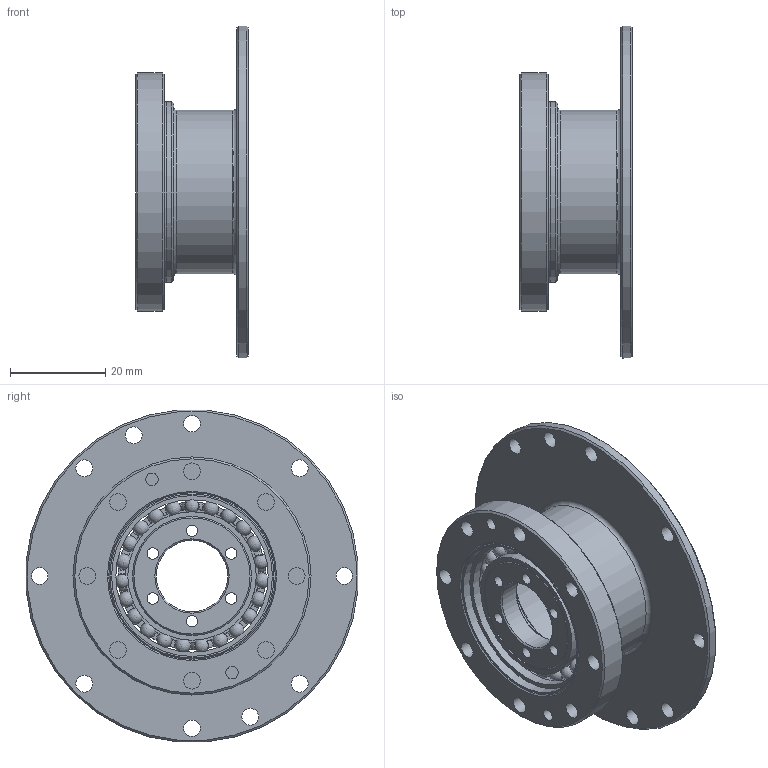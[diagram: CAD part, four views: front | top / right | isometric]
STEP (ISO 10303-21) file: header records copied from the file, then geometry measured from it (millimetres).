
FILE_DESCRIPTION(/* description */ (''),/* implementation_level */ '2;1');
FILE_NAME(/* name */ 'Getriebeset_HTG_35_HS.stp',/* time_stamp */ '2026-03-09T10:56:48+01:00',/* author */ (''),/* organization */ (''),/* preprocessor_version */ 'ST-DEVELOPER v19.4',/* originating_system */ 'SIEMENS PLM Software NX2212.9120',/* authorisation */ '');
FILE_SCHEMA (('AUTOMOTIVE_DESIGN { 1 0 10303 214 3 1 1 1 }'));
Length unit declared in the file: millimetre
Products named in the file (1): Getriebeset_HTG_35_HS
Bounding box: 23.7 x 69.73 x 69.73 mm (x, y, z)
Volume: 15192.8 mm3; surface area: 21890.6 mm2
Topology: 29 solids, 29 shells, 248 faces, 700 edges, 470 vertices
Faces by surface type: cylinder 83, plane 67, torus 46, sphere 35, cone 15, bspline 2
Full cylindrical faces by diameter (mm): 2.4 x6, 2.6 x2, 3.5 x18, 15 x1, 22.5 x1, 25 x2, 27 x3, 30 x1, 32 x2, 33.8 x2, 34.327 x1, 35 x1, 35.5 x1, 38 x1, 48 x1, 50 x1, 70 x1
Entity records: 9548 total; most frequent: CARTESIAN_POINT 3800, DIRECTION 1074, ORIENTED_EDGE 1052, EDGE_CURVE 526, AXIS2_PLACEMENT_3D 499, VERTEX_POINT 411, EDGE_LOOP 364, CIRCLE 252
